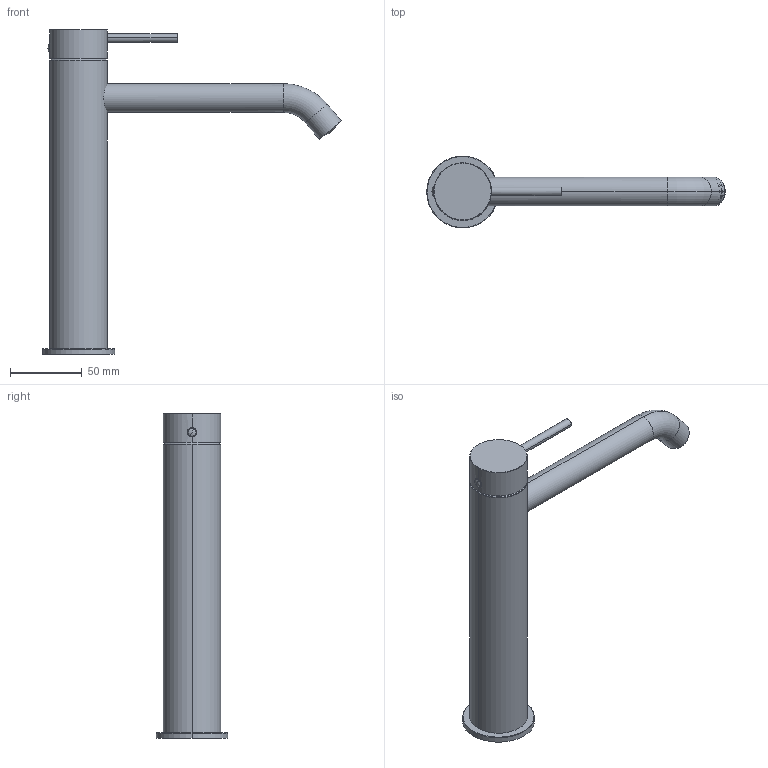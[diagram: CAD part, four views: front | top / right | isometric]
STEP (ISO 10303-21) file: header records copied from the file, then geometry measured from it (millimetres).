
FILE_DESCRIPTION (( 'STEP AP203' ), '1' );
FILE_NAME ('RON92D.STEP', '2023-01-10T14:40:44', ( '' ), ( '' ), 'SwSTEP 2.0', 'SolidWorks 2021', '' );
FILE_SCHEMA (( 'CONFIG_CONTROL_DESIGN' ));
Length unit declared in the file: millimetre
Products named in the file (3): RON92D; RON LAVABO MEDIO; BASETTA
Assembly tree (2 placements, depth 2):
  RON92D
    RON LAVABO MEDIO
    BASETTA
Bounding box: 207.66 x 50 x 226 mm (x, y, z)
Volume: 111797 mm3; surface area: 104279 mm2
Topology: 15 solids, 15 shells, 1798 faces, 4350 edges, 2827 vertices
Faces by surface type: plane 1121, cylinder 533, cone 102, torus 26, bspline 14, sphere 2
Entity records: 63482 total; most frequent: CARTESIAN_POINT 21240, ORIENTED_EDGE 8676, DIRECTION 8329, EDGE_CURVE 4338, VECTOR 2951, LINE 2951, VERTEX_POINT 2827, AXIS2_PLACEMENT_3D 2689
